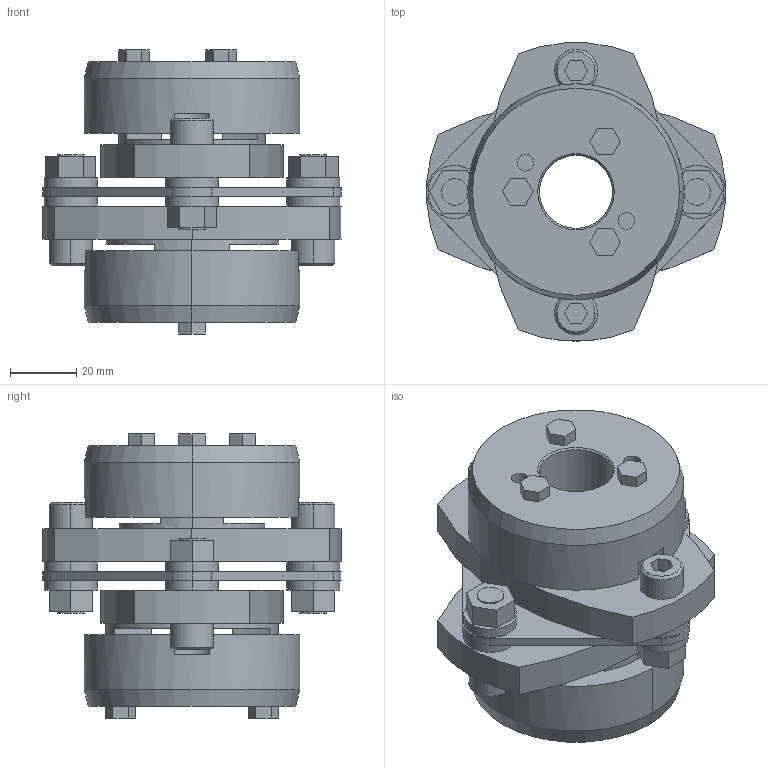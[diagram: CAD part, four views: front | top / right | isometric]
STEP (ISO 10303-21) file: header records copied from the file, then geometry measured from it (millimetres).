
FILE_DESCRIPTION((''),'2;1');
FILE_NAME('LCS-90T7-22×28.stp','2015-11-01T20:30:02',(''),(''),'AutoCAD STEP 2000i','AutoCAD 2000i',', , ');
FILE_SCHEMA(('CONFIG_CONTROL_DESIGN'));
Length unit declared in the file: millimetre
Products named in the file (10): LCS-90T7-20×30; 忣兜1; LC90T7-T020; LC90T7-T030; LC90T7-T025; LC90T7-T019-1; LC90T7-T019; LC90-B019-1; LC90-B019; LCS90-ITA
Assembly tree (9 placements, depth 2):
  LCS-90T7-20×30
    忣兜1
    LC90T7-T020
    LC90T7-T030
    LC90T7-T025
    LC90T7-T019-1
    LC90T7-T019
    LC90-B019-1
    LC90-B019
    LCS90-ITA
Bounding box: 90 x 89.94 x 85.5 mm (x, y, z)
Volume: 220479.1 mm3; surface area: 54908.6 mm2
Topology: 1 solids, 1 shells, 233 faces, 574 edges, 376 vertices
Faces by surface type: plane 129, cylinder 84, cone 20
Entity records: 7177 total; most frequent: DIRECTION 1272, CARTESIAN_POINT 1193, ORIENTED_EDGE 1148, EDGE_CURVE 574, AXIS2_PLACEMENT_3D 455, VERTEX_POINT 376, VECTOR 362, LINE 362
